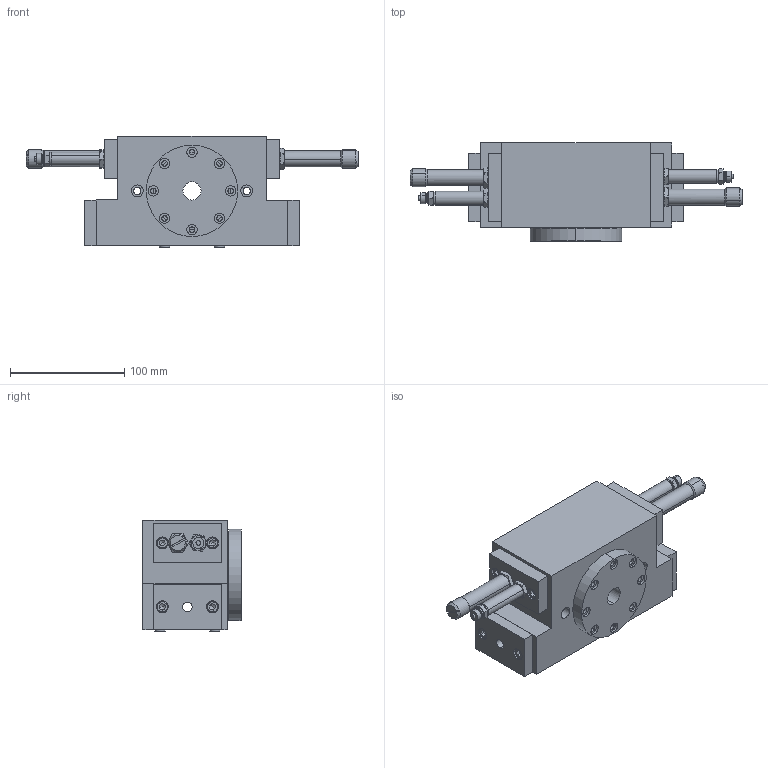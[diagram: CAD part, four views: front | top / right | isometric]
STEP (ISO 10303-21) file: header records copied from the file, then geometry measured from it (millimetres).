
FILE_DESCRIPTION((''),'2;1');
FILE_NAME('V:\CAD\Inventor-Stp\Drehantriebe\DA 32\2000039\2000039.stp','2006-03-15T08:57:11',('is'),(''),'Autodesk Inventor 8','Autodesk Inventor 8','');
FILE_SCHEMA(('AUTOMOTIVE_DESIGN { 1 0 10303 214 1 1 1 1 }'));
Length unit declared in the file: millimetre
Products named in the file (3): 2000039; 2000039-a; 2000039-b
Assembly tree (2 placements, depth 2):
  2000039
    2000039-a
    2000039-b
Bounding box: 291 x 86 x 97.9 mm (x, y, z)
Volume: 923736.1 mm3; surface area: 182870.4 mm2
Topology: 2 solids, 42 shells, 2487 faces, 6868 edges, 4506 vertices
Faces by surface type: plane 1718, bspline 331, cylinder 228, cone 186, torus 24
Entity records: 85784 total; most frequent: CARTESIAN_POINT 24741, ORIENTED_EDGE 13632, DIRECTION 11320, EDGE_CURVE 6816, VERTEX_POINT 4506, VECTOR 4382, LINE 4382, AXIS2_PLACEMENT_3D 3469
